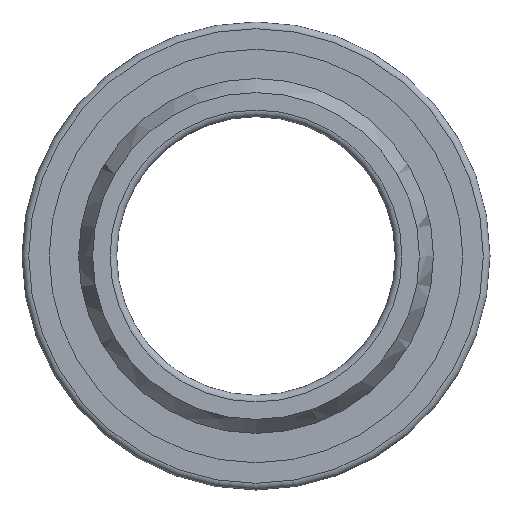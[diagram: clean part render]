
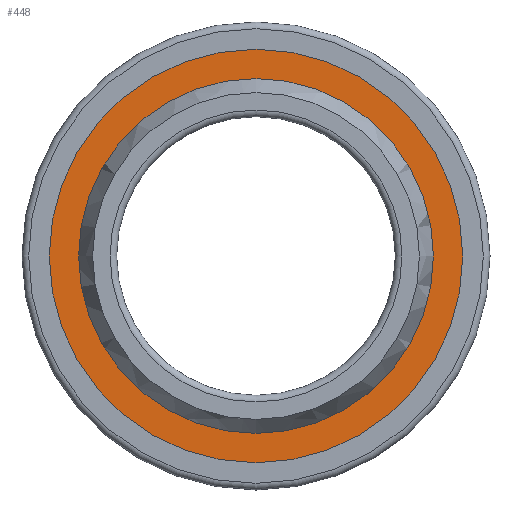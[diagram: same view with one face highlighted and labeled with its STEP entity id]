
A CAD part, left-side view. The second image highlights one B-rep face of the part: STEP entity #448.
In plain terms, the highlighted planar face has unit normal (-1, 0, 0).
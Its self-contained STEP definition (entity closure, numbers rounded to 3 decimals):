
#48=PLANE('',#520);
#107=FACE_BOUND('',#222,.T.);
#146=FACE_OUTER_BOUND('',#221,.T.);
#221=EDGE_LOOP('',(#405));
#222=EDGE_LOOP('',(#406));
#251=CIRCLE('',#514,18.556);
#254=CIRCLE('',#519,15.925);
#289=VERTEX_POINT('',#982);
#292=VERTEX_POINT('',#990);
#327=EDGE_CURVE('',#289,#289,#251,.T.);
#330=EDGE_CURVE('',#292,#292,#254,.T.);
#405=ORIENTED_EDGE('',*,*,#327,.F.);
#406=ORIENTED_EDGE('',*,*,#330,.T.);
#448=ADVANCED_FACE('',(#146,#107),#48,.T.);
#514=AXIS2_PLACEMENT_3D('',#983,#650,#651);
#519=AXIS2_PLACEMENT_3D('',#991,#660,#661);
#520=AXIS2_PLACEMENT_3D('',#992,#662,#663);
#650=DIRECTION('center_axis',(1.,0.,0.));
#651=DIRECTION('ref_axis',(0.,0.,-1.));
#660=DIRECTION('center_axis',(1.,0.,0.));
#661=DIRECTION('ref_axis',(0.,0.,-1.));
#662=DIRECTION('center_axis',(-1.,0.,0.));
#663=DIRECTION('ref_axis',(0.,0.,1.));
#982=CARTESIAN_POINT('',(-7.84,18.556,0.));
#983=CARTESIAN_POINT('Origin',(-7.84,0.,0.));
#990=CARTESIAN_POINT('',(-7.84,15.925,0.));
#991=CARTESIAN_POINT('Origin',(-7.84,0.,0.));
#992=CARTESIAN_POINT('Origin',(-7.84,18.556,0.));
